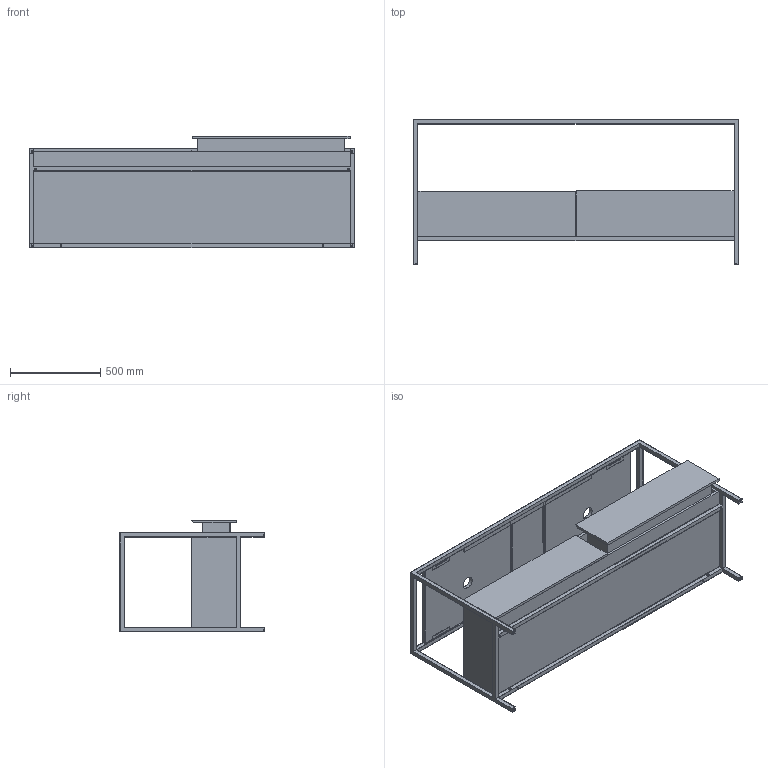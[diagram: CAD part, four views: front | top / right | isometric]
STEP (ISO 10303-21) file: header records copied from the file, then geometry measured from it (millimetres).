
FILE_DESCRIPTION (( 'STEP AP203' ), '1' );
FILE_NAME ('STA 180 01.STEP', '2019-02-04T14:36:08', ( '' ), ( '' ), 'SwSTEP 2.0', 'SolidWorks 2019', '' );
FILE_SCHEMA (( 'CONFIG_CONTROL_DESIGN' ));
Length unit declared in the file: millimetre
Products named in the file (7): struttura STAND180; SCOCCA STAND 180; PIANO MISURA 67; Ass CASSETTONE 180; PIANETTO; CASSETTO 87,5; STA 180 01
Assembly tree (8 placements, depth 3):
  STA 180 01
    struttura STAND180
    Ass CASSETTONE 180
      SCOCCA STAND 180
      CASSETTO 87,5  x2
    PIANO MISURA 67  x2
    PIANETTO
Bounding box: 1800 x 800 x 619.96 mm (x, y, z)
Volume: 69554467.6 mm3; surface area: 13136947.2 mm2
Topology: 7 solids, 7 shells, 265 faces, 688 edges, 432 vertices
Faces by surface type: plane 181, cylinder 68, torus 16
Entity records: 7707 total; most frequent: CARTESIAN_POINT 1196, ORIENTED_EDGE 1180, DIRECTION 1174, EDGE_CURVE 590, VECTOR 474, LINE 474, VERTEX_POINT 372, AXIS2_PLACEMENT_3D 350
